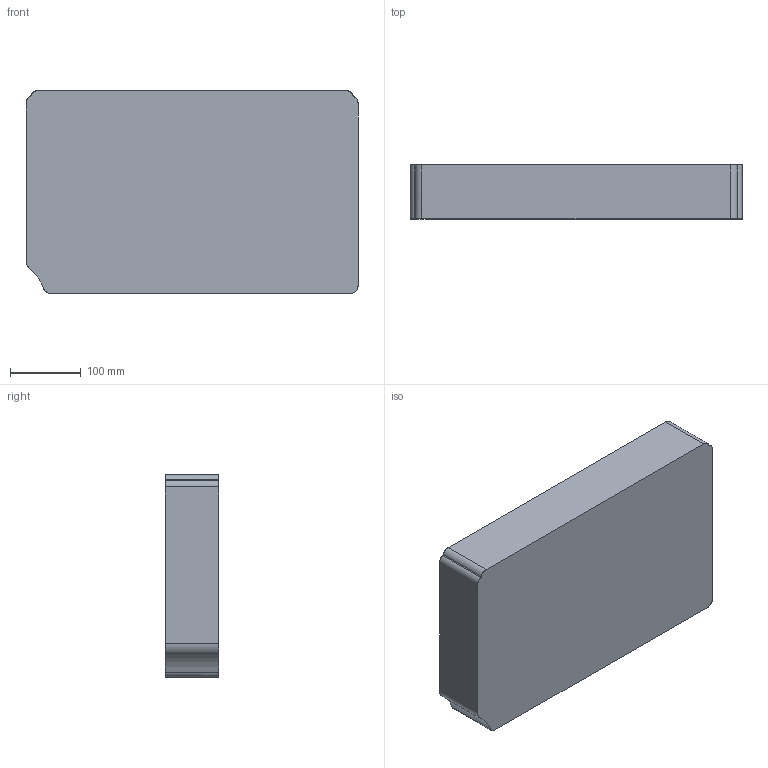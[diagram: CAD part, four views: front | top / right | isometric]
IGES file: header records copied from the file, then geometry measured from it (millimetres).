
Start section: SolidWorks IGES file using analytic representation for surfaces
Global section: file name: C:\Users\cchaiyont\My Project\SARTKII\SARTKII CAD\SARTK PID\0450G2 Shallow drawer 12-4-2019.IGS; native system: SolidWorks 2016; preprocessor: SolidWorks 2016; author: cchaiyont; date: 200204.193837; units: inch
Bounding box: 470.04 x 76.2 x 287.01 mm (x, y, z)
Surface area: 474086.8 mm2 (no closed solid volume)
Topology: 0 solids, 0 shells, 47 faces, 413 edges, 411 vertices
Faces by surface type: bspline 28, revolution 19
